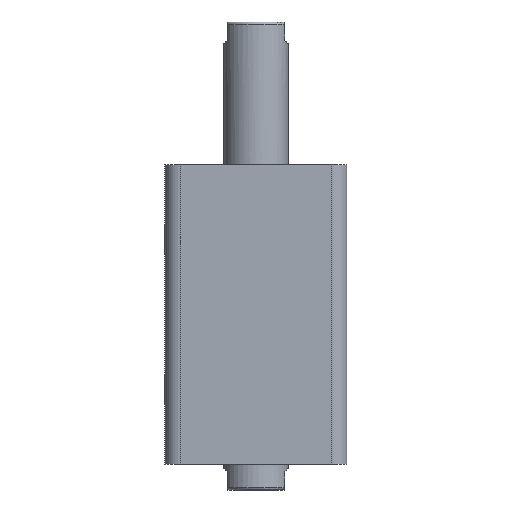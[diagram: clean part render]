
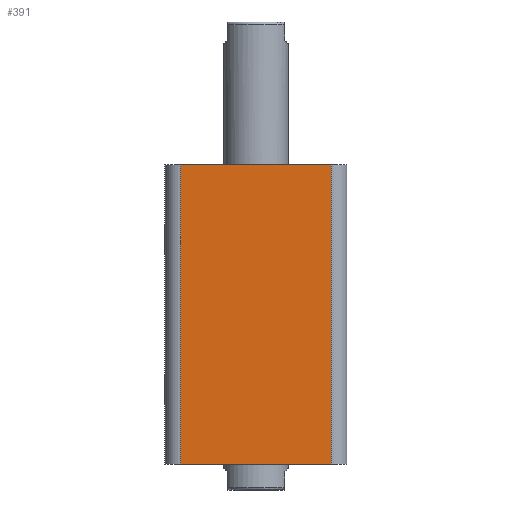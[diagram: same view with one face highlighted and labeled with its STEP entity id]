
A CAD part, front view. The second image highlights one B-rep face of the part: STEP entity #391.
In plain terms, the highlighted planar face has unit normal (0, -1, 0).
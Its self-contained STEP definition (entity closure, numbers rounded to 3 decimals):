
#93 = FACE_OUTER_BOUND ( 'NONE', #2409, .T. ) ;
#391 = ADVANCED_FACE ( 'NONE', ( #93 ), #1156, .F. ) ;
#570 = LINE ( 'NONE', #1523, #595 ) ;
#582 = LINE ( 'NONE', #1533, #587 ) ;
#586 = LINE ( 'NONE', #1536, #592 ) ;
#587 = VECTOR ( 'NONE', #1535, 1000. ) ;
#592 = VECTOR ( 'NONE', #1537, 1000. ) ;
#593 = LINE ( 'NONE', #1539, #599 ) ;
#595 = VECTOR ( 'NONE', #1538, 1000. ) ;
#599 = VECTOR ( 'NONE', #1540, 1000. ) ;
#670 = CARTESIAN_POINT ( 'NONE',  ( 29., -35., 0. ) ) ;
#694 = CARTESIAN_POINT ( 'NONE',  ( 29., -35., 115. ) ) ;
#698 = CARTESIAN_POINT ( 'NONE',  ( -29., -35., 0. ) ) ;
#716 = CARTESIAN_POINT ( 'NONE',  ( -29., -35., 115. ) ) ;
#1154 = CARTESIAN_POINT ( 'NONE',  ( -35., -35., 115. ) ) ;
#1156 = PLANE ( 'NONE',  #2965 ) ;
#1158 = DIRECTION ( 'NONE',  ( 0., 1., 0. ) ) ;
#1159 = DIRECTION ( 'NONE',  ( 0., 0., 1. ) ) ;
#1523 = CARTESIAN_POINT ( 'NONE',  ( -35., -35., 0. ) ) ;
#1533 = CARTESIAN_POINT ( 'NONE',  ( -35., -35., 115. ) ) ;
#1535 = DIRECTION ( 'NONE',  ( 1., 0., 0. ) ) ;
#1536 = CARTESIAN_POINT ( 'NONE',  ( -29., -35., 115. ) ) ;
#1537 = DIRECTION ( 'NONE',  ( 0., 0., -1. ) ) ;
#1538 = DIRECTION ( 'NONE',  ( 1., 0., 0. ) ) ;
#1539 = CARTESIAN_POINT ( 'NONE',  ( 29., -35., 115. ) ) ;
#1540 = DIRECTION ( 'NONE',  ( 0., 0., 1. ) ) ;
#2106 = VERTEX_POINT ( 'NONE', #670 ) ;
#2119 = VERTEX_POINT ( 'NONE', #694 ) ;
#2121 = VERTEX_POINT ( 'NONE', #698 ) ;
#2131 = VERTEX_POINT ( 'NONE', #716 ) ;
#2343 = ORIENTED_EDGE ( 'NONE', *, *, #2791, .F. ) ;
#2405 = ORIENTED_EDGE ( 'NONE', *, *, #2794, .T. ) ;
#2406 = ORIENTED_EDGE ( 'NONE', *, *, #2793, .T. ) ;
#2407 = ORIENTED_EDGE ( 'NONE', *, *, #2792, .T. ) ;
#2409 = EDGE_LOOP ( 'NONE', ( #2343, #2407, #2406, #2405 ) ) ;
#2791 = EDGE_CURVE ( 'NONE', #2131, #2119, #582, .T. ) ;
#2792 = EDGE_CURVE ( 'NONE', #2131, #2121, #586, .T. ) ;
#2793 = EDGE_CURVE ( 'NONE', #2121, #2106, #570, .T. ) ;
#2794 = EDGE_CURVE ( 'NONE', #2106, #2119, #593, .T. ) ;
#2965 = AXIS2_PLACEMENT_3D ( 'NONE', #1154, #1158, #1159 ) ;
